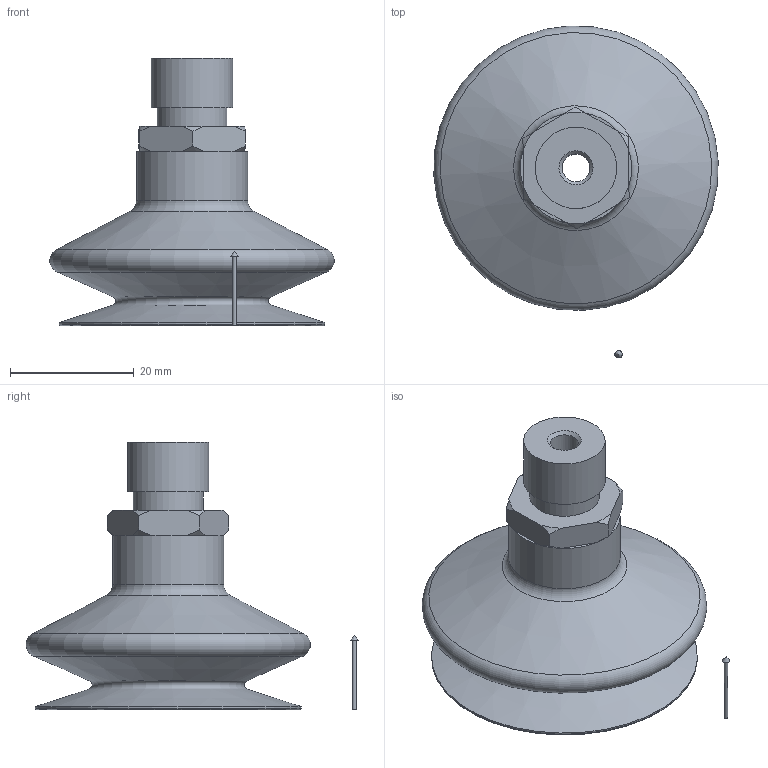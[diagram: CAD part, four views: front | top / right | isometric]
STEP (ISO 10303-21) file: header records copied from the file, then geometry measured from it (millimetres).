
FILE_DESCRIPTION(('STEP AP214'),'1');
FILE_NAME('KIT.08.30.D43.21.stp','2019-05-28T06:14:35',(' '),(' '),'Spatial InterOp 3D',' ',' ');
FILE_SCHEMA(('AUTOMOTIVE_DESIGN { 1 0 10303 214 1 1 1 1 }'));
Length unit declared in the file: millimetre
Products named in the file (5): KIT.08.30.D43.21; CA.08.09.021; CA.08.30.007
Assembly tree (4 placements, depth 3):
  KIT.08.30.D43.21
    CA.08.09.021
    (unnamed)
      CA.08.30.007
      CA.08.30.007
Bounding box: 45.94 x 53.63 x 43.2 mm (x, y, z)
Volume: 12716.1 mm3; surface area: 11890.8 mm2
Topology: 3 solids, 3 shells, 60 faces, 130 edges, 83 vertices
Faces by surface type: cone 24, plane 19, cylinder 10, torus 7
Full cylindrical faces by diameter (mm): 0.6 x1, 4.5 x1, 8 x1, 8.8 x1, 11.3 x1, 12 x1, 13.157 x1, 14.5 x1, 18 x1, 43 x1
Entity records: 2221 total; most frequent: CARTESIAN_POINT 476, DIRECTION 250, ORIENTED_EDGE 188, AXIS2_PLACEMENT_3D 116, EDGE_LOOP 100, EDGE_CURVE 94, FACE_OUTER_BOUND 77, VERTEX_POINT 77
